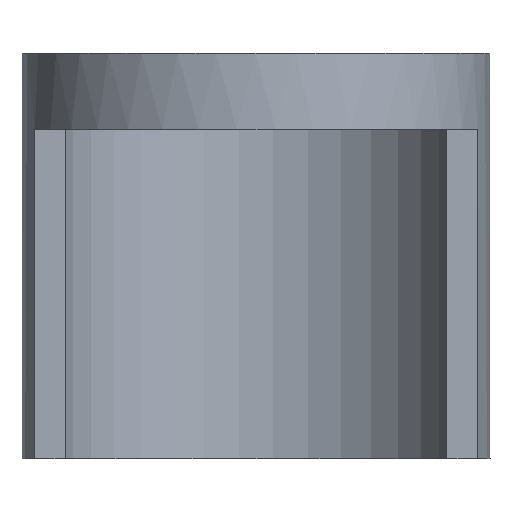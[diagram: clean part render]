
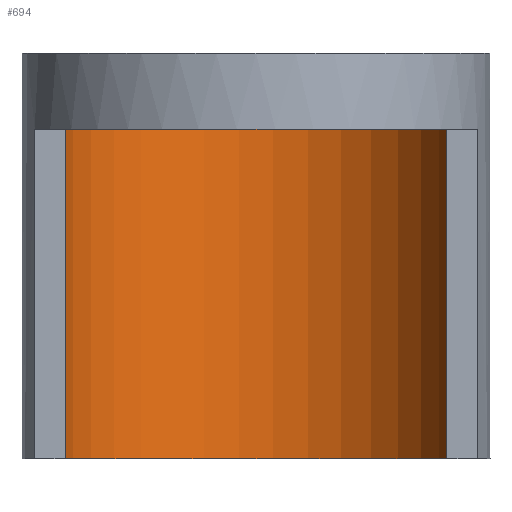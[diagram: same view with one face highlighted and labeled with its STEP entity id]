
A CAD part, front view. The second image highlights one B-rep face of the part: STEP entity #694.
In plain terms, the highlighted cylindrical face has radius 8.1 mm (diameter 16.2 mm), a partial arc.
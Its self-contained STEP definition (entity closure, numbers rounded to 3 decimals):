
#20=CYLINDRICAL_SURFACE('',#743,8.1);
#33=CIRCLE('',#727,8.1);
#44=CIRCLE('',#744,8.1);
#57=FACE_OUTER_BOUND('',#97,.T.);
#97=EDGE_LOOP('',(#500,#501,#502,#503));
#146=LINE('',#1026,#229);
#147=LINE('',#1029,#230);
#229=VECTOR('',#837,10.);
#230=VECTOR('',#840,10.);
#305=VERTEX_POINT('',#987);
#307=VERTEX_POINT('',#991);
#318=VERTEX_POINT('',#1025);
#319=VERTEX_POINT('',#1027);
#374=EDGE_CURVE('',#305,#307,#33,.T.);
#390=EDGE_CURVE('',#307,#318,#146,.T.);
#391=EDGE_CURVE('',#319,#318,#44,.T.);
#392=EDGE_CURVE('',#305,#319,#147,.T.);
#500=ORIENTED_EDGE('',*,*,#374,.T.);
#501=ORIENTED_EDGE('',*,*,#390,.T.);
#502=ORIENTED_EDGE('',*,*,#391,.F.);
#503=ORIENTED_EDGE('',*,*,#392,.F.);
#694=ADVANCED_FACE('',(#57),#20,.F.);
#727=AXIS2_PLACEMENT_3D('',#993,#798,#799);
#743=AXIS2_PLACEMENT_3D('',#1024,#835,#836);
#744=AXIS2_PLACEMENT_3D('',#1028,#838,#839);
#798=DIRECTION('center_axis',(0.,0.,1.));
#799=DIRECTION('ref_axis',(0.929,-0.37,0.));
#835=DIRECTION('center_axis',(0.,0.,-1.));
#836=DIRECTION('ref_axis',(0.,1.,0.));
#837=DIRECTION('',(0.,0.,-1.));
#838=DIRECTION('center_axis',(0.,0.,1.));
#839=DIRECTION('ref_axis',(0.929,-0.37,0.));
#840=DIRECTION('',(0.,0.,-1.));
#987=CARTESIAN_POINT('',(7.524,-3.,13.));
#991=CARTESIAN_POINT('',(-7.524,-3.,13.));
#993=CARTESIAN_POINT('Origin',(0.,0.,
13.));
#1024=CARTESIAN_POINT('Origin',(0.,0.,
14.));
#1025=CARTESIAN_POINT('',(-7.524,-3.,0.));
#1026=CARTESIAN_POINT('',(-7.524,-3.,14.));
#1027=CARTESIAN_POINT('',(7.524,-3.,0.));
#1028=CARTESIAN_POINT('Origin',(0.,0.,
0.));
#1029=CARTESIAN_POINT('',(7.524,-3.,14.));
